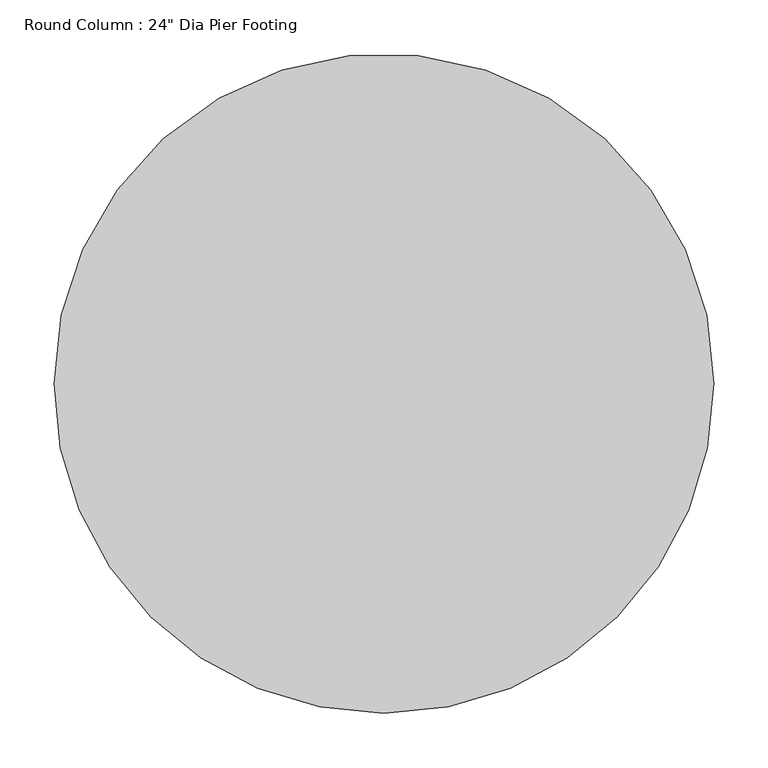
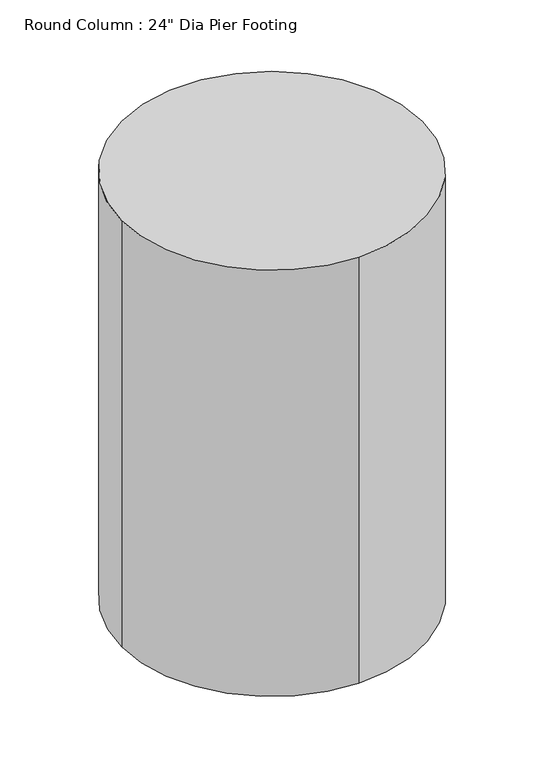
"""IFC4 building model written with IfcOpenShell, lengths in millimetres: column geometry."""

from ifc_helpers import new_model, si_unit, point, frame, origin, origin_2d, place, context, project, spatial, circle_curve, trimmed, segment, composite_curve, outline, extrude, source, transform, mapped, element, save


def column_206635bb(model_context):
    return source(origin(), model_context, "Body", "SweptSolid", [
        extrude(outline(composite_curve([segment(trimmed(circle_curve(origin_2d(), 304.8), [point((304.8, 0.0))], [point((0.0, -304.8))], False, "CARTESIAN"), True, "CONTINUOUS"), segment(trimmed(circle_curve(origin_2d(), 304.8), [point((0.0, -304.8))], [point((-304.8, 0.0))], False, "CARTESIAN"), True, "CONTINUOUS"), segment(trimmed(circle_curve(origin_2d(), 304.8), [point((-304.8, 0.0))], [point((304.8, 0.0))], False, "CARTESIAN"), True, "CONTINUOUS")], self_intersect=False)), frame((0.0, 0.0, 289471.1), z_axis=(0.0, 0.0, 1.0), x_axis=(1.0, 0.0, 0.0)), (0.0, 0.0, 1.0), 914.4),
    ])


if __name__ == "__main__":
    model = new_model("IFC4")
    model_context = context("Model", 3, world=origin())
    ifc_project = project(units=[si_unit("LENGTHUNIT", "METRE", prefix="MILLI")], contexts=[model_context])
    site = spatial("IfcSite", under=ifc_project)
    building = spatial("IfcBuilding", under=site)
    placement = place(None, origin())
    column_shape = column_206635bb(model_context)
    element("IfcColumn", 1, ObjectType="Round Column : 24\" Dia Pier Footing", at=placement, inside=building, context=model_context, shape_type="MappedRepresentation", body=[
        mapped(column_shape, transform((0.0, 0.0, 0.0), x_axis=(1.0, 0.0, 0.0), y_axis=(0.0, 1.0, 0.0), z_axis=(0.0, 0.0, 1.0))),
    ])
    save(model, "model.ifc")
